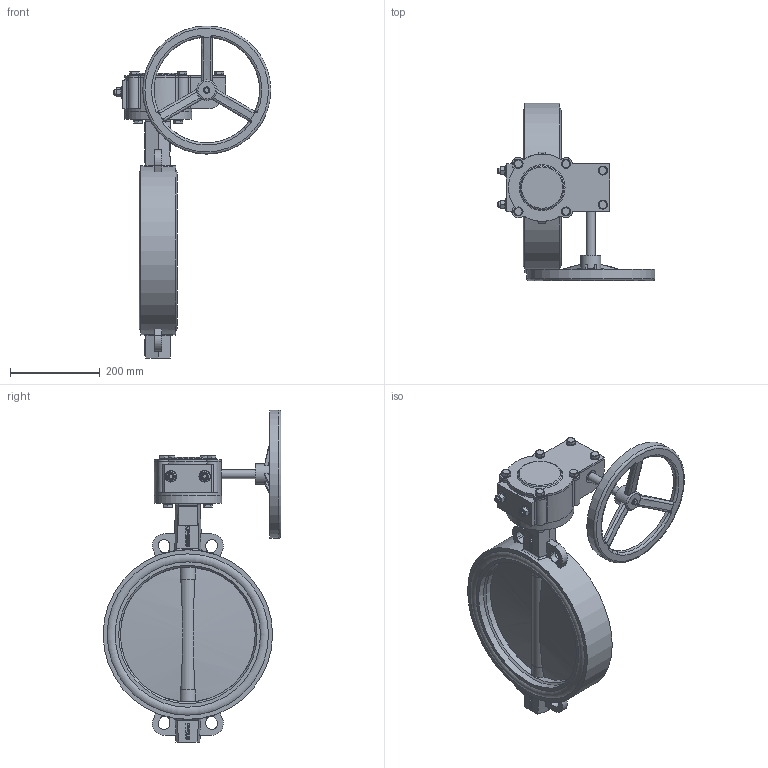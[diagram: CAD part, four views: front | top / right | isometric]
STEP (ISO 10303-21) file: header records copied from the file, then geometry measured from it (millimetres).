
FILE_DESCRIPTION(('STEP AP242'), '1');
FILE_NAME('Ïîâîðîòíûé çàòâîð ïîä ýëåêòðîïðèâîä', '', ('UNSPECIFIED'), ('UNSPECIFIED'), 'C3D Converter', 'C3D Toolkit', '');
FILE_SCHEMA(('AP242_MANAGED_MODEL_BASED_3D_ENGINEERING_MIM_LF { 1 0 10303 442 1 1 4 }'));
Length unit declared in the file: millimetre
Products named in the file (17): П
Assembly tree (36 placements, depth 3):
  (unnamed)
    (unnamed)
    П  x2
    (unnamed)
    (unnamed)
    (unnamed)
    (unnamed)
      (unnamed)
      (unnamed)
      (unnamed)
      (unnamed)
      (unnamed)  x6
      (unnamed)  x6
      (unnamed)  x2
      (unnamed)  x2
      (unnamed)
    (unnamed)  x4
    (unnamed)  x4
Bounding box: 350.5 x 395.5 x 738.5 mm (x, y, z)
Volume: 8026125 mm3; surface area: 1245881.6 mm2
Topology: 35 solids, 35 shells, 831 faces, 2003 edges, 1294 vertices
Faces by surface type: plane 388, extrusion 157, cylinder 149, bspline 60, cone 44, torus 29, sphere 4
Full cylindrical faces by diameter (mm): 6 x2, 10.647 x2, 11.421 x1, 12 x30, 13 x10, 14 x4, 20 x13, 27 x6, 30 x2, 37.05 x4, 38.184 x5, 45 x1, 150 x2, 235 x1, 245 x1, 275 x1, 285 x1, 300 x1, 307.8 x2, 323.4 x2, 341.1 x4, 358.8 x4, 377 x1
Entity records: 33834 total; most frequent: CARTESIAN_POINT 15725, ORIENTED_EDGE 3140, DIRECTION 2453, EDGE_CURVE 1570, VERTEX_POINT 1088, EDGE_LOOP 866, VECTOR 839, AXIS2_PLACEMENT_3D 807
